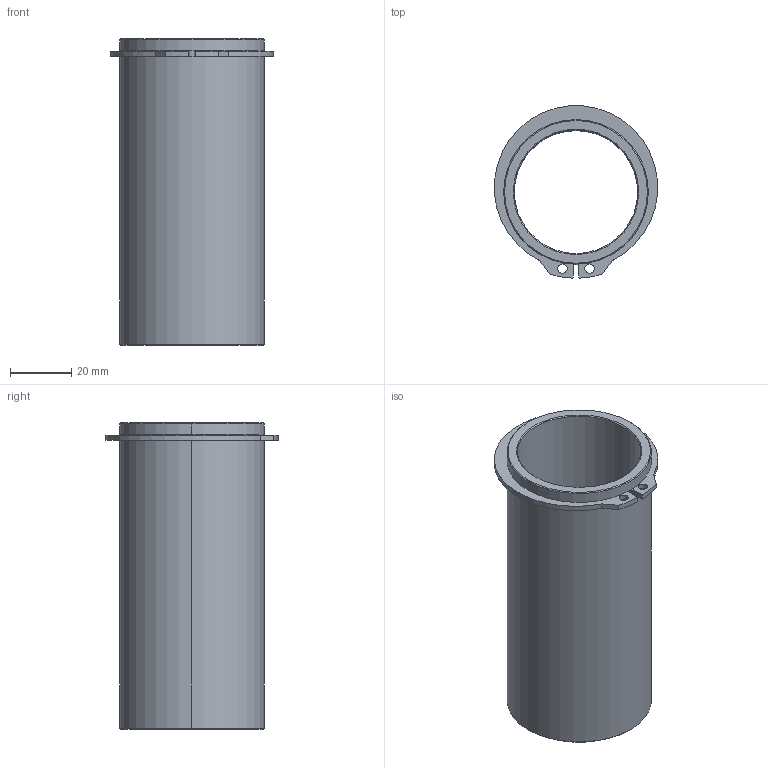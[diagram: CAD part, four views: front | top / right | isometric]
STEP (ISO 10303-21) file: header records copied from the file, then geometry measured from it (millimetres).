
FILE_DESCRIPTION((''),'2;1');
FILE_NAME('C13_040_100.stp','2008-12-17T16:06:26',(''),(''),'Mechanical Desktop 2009','Mechanical Desktop 2009',', , ');
FILE_SCHEMA(('CONFIG_CONTROL_DESIGN'));
Length unit declared in the file: millimetre
Products named in the file (2): Product; blmdl1
Assembly tree (1 placements, depth 2):
  Product
    blmdl1
Bounding box: 53.33 x 56.26 x 100 mm (x, y, z)
Volume: 48358.3 mm3; surface area: 30560.2 mm2
Topology: 2 solids, 2 shells, 34 faces, 76 edges, 48 vertices
Faces by surface type: cylinder 16, plane 10, cone 8
Entity records: 1075 total; most frequent: DIRECTION 188, CARTESIAN_POINT 160, ORIENTED_EDGE 152, AXIS2_PLACEMENT_3D 76, EDGE_CURVE 76, VERTEX_POINT 48, EDGE_LOOP 42, CIRCLE 40
